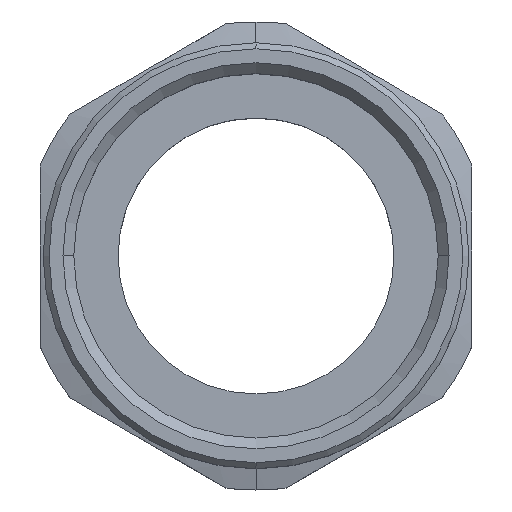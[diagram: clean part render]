
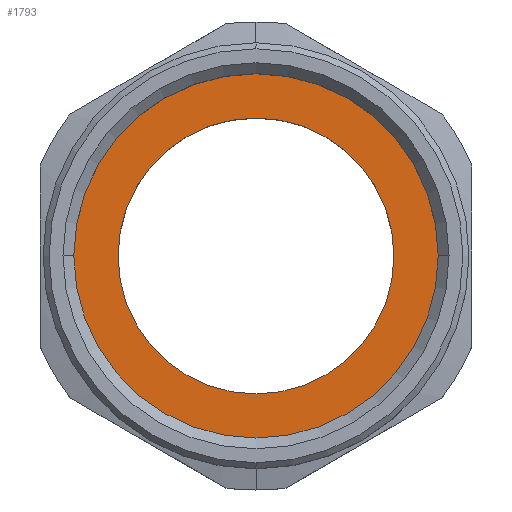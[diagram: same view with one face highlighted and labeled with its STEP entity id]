
A CAD part, top view. The second image highlights one B-rep face of the part: STEP entity #1793.
In plain terms, the highlighted planar face has unit normal (0, 0, 1).
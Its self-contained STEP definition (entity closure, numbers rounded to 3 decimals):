
#649 = DIRECTION ( 'NONE',  ( 1., 0., 0. ) ) ;
#653 = CIRCLE ( 'NONE', #660, 11.5 ) ;
#654 = DIRECTION ( 'NONE',  ( 1., 0., 0. ) ) ;
#656 = DIRECTION ( 'NONE',  ( 0., 0., 1. ) ) ;
#657 = CIRCLE ( 'NONE', #663, 15.188 ) ;
#660 = AXIS2_PLACEMENT_3D ( 'NONE', #662, #656, #654 ) ;
#661 = DIRECTION ( 'NONE',  ( 0., 0., 1. ) ) ;
#662 = CARTESIAN_POINT ( 'NONE',  ( 0., 0., -10.5 ) ) ;
#663 = AXIS2_PLACEMENT_3D ( 'NONE', #664, #661, #649 ) ;
#664 = CARTESIAN_POINT ( 'NONE',  ( 0., 0., -10.5 ) ) ;
#674 = FACE_BOUND ( 'NONE', #1792, .T. ) ;
#675 = PLANE ( 'NONE',  #686 ) ;
#676 = DIRECTION ( 'NONE',  ( 1., 0., 0. ) ) ;
#680 = CARTESIAN_POINT ( 'NONE',  ( 0., 15.188, -10.5 ) ) ;
#684 = FACE_OUTER_BOUND ( 'NONE', #1787, .T. ) ;
#685 = DIRECTION ( 'NONE',  ( 0., 0., 1. ) ) ;
#686 = AXIS2_PLACEMENT_3D ( 'NONE', #680, #685, #676 ) ;
#1162 = EDGE_CURVE ( 'NONE', #1168, #1204, #2016, .T. ) ;
#1168 = VERTEX_POINT ( 'NONE', #2005 ) ;
#1204 = VERTEX_POINT ( 'NONE', #2207 ) ;
#1230 = EDGE_CURVE ( 'NONE', #1260, #1231, #2216, .T. ) ;
#1231 = VERTEX_POINT ( 'NONE', #2211 ) ;
#1260 = VERTEX_POINT ( 'NONE', #2132 ) ;
#1764 = ORIENTED_EDGE ( 'NONE', *, *, #1162, .T. ) ;
#1766 = ORIENTED_EDGE ( 'NONE', *, *, #1769, .T. ) ;
#1767 = ORIENTED_EDGE ( 'NONE', *, *, #1768, .F. ) ;
#1768 = EDGE_CURVE ( 'NONE', #1231, #1260, #653, .T. ) ;
#1769 = EDGE_CURVE ( 'NONE', #1204, #1168, #657, .T. ) ;
#1787 = EDGE_LOOP ( 'NONE', ( #1766, #1764 ) ) ;
#1792 = EDGE_LOOP ( 'NONE', ( #1767, #1829 ) ) ;
#1793 = ADVANCED_FACE ( 'NONE', ( #684, #674 ), #675, .T. ) ;
#1829 = ORIENTED_EDGE ( 'NONE', *, *, #1230, .F. ) ;
#2005 = CARTESIAN_POINT ( 'NONE',  ( -15.188, 0., -10.5 ) ) ;
#2013 = DIRECTION ( 'NONE',  ( 1., 0., 0. ) ) ;
#2014 = DIRECTION ( 'NONE',  ( 0., 0., 1. ) ) ;
#2015 = AXIS2_PLACEMENT_3D ( 'NONE', #2048, #2014, #2013 ) ;
#2016 = CIRCLE ( 'NONE', #2015, 15.188 ) ;
#2048 = CARTESIAN_POINT ( 'NONE',  ( 0., 0., -10.5 ) ) ;
#2132 = CARTESIAN_POINT ( 'NONE',  ( -11.5, 0., -10.5 ) ) ;
#2207 = CARTESIAN_POINT ( 'NONE',  ( 15.188, 0., -10.5 ) ) ;
#2211 = CARTESIAN_POINT ( 'NONE',  ( 11.5, 0., -10.5 ) ) ;
#2212 = DIRECTION ( 'NONE',  ( 1., 0., 0. ) ) ;
#2213 = DIRECTION ( 'NONE',  ( 0., 0., 1. ) ) ;
#2214 = CARTESIAN_POINT ( 'NONE',  ( 0., 0., -10.5 ) ) ;
#2215 = AXIS2_PLACEMENT_3D ( 'NONE', #2214, #2213, #2212 ) ;
#2216 = CIRCLE ( 'NONE', #2215, 11.5 ) ;
